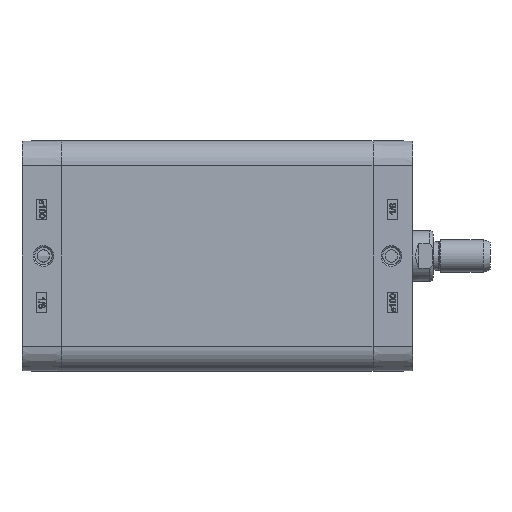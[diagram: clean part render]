
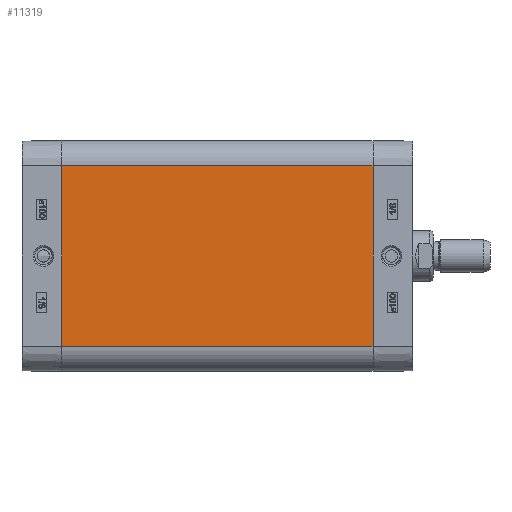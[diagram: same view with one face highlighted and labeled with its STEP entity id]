
A CAD part, left-side view. The second image highlights one B-rep face of the part: STEP entity #11319.
In plain terms, the highlighted planar face has unit normal (-1, 0, 0).
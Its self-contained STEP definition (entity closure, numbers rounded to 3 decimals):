
#5684=CARTESIAN_POINT('',(-56.65,-153.0,44.4));
#5685=VERTEX_POINT('',#5684);
#5692=CARTESIAN_POINT('',(-56.65,-153.0,-44.4));
#5693=VERTEX_POINT('',#5692);
#5694=CARTESIAN_POINT('',(-56.65,-153.0,-44.4));
#5695=DIRECTION('',(0.0,0.0,1.0));
#5696=VECTOR('',#5695,88.8);
#5697=LINE('',#5694,#5696);
#5698=EDGE_CURVE('',#5693,#5685,#5697,.T.);
#11277=CARTESIAN_POINT('',(-56.65,0.0,-44.4));
#11278=VERTEX_POINT('',#11277);
#11279=CARTESIAN_POINT('',(-56.65,0.0,-44.4));
#11280=DIRECTION('',(0.0,-1.0,0.0));
#11281=VECTOR('',#11280,153.0);
#11282=LINE('',#11279,#11281);
#11283=EDGE_CURVE('',#11278,#5693,#11282,.T.);
#11296=CARTESIAN_POINT('',(-56.65,0.0,-44.4));
#11297=DIRECTION('',(-1.0,0.0,0.0));
#11298=DIRECTION('',(0.0,0.0,1.0));
#11299=AXIS2_PLACEMENT_3D('',#11296,#11297,#11298);
#11300=PLANE('',#11299);
#11301=ORIENTED_EDGE('',*,*,#5698,.T.);
#11302=CARTESIAN_POINT('',(-56.65,0.0,44.4));
#11303=VERTEX_POINT('',#11302);
#11304=CARTESIAN_POINT('',(-56.65,0.0,44.4));
#11305=DIRECTION('',(0.0,-1.0,0.0));
#11306=VECTOR('',#11305,153.0);
#11307=LINE('',#11304,#11306);
#11308=EDGE_CURVE('',#11303,#5685,#11307,.T.);
#11309=ORIENTED_EDGE('',*,*,#11308,.F.);
#11310=CARTESIAN_POINT('',(-56.65,0.0,-44.4));
#11311=DIRECTION('',(0.0,0.0,1.0));
#11312=VECTOR('',#11311,88.8);
#11313=LINE('',#11310,#11312);
#11314=EDGE_CURVE('',#11278,#11303,#11313,.T.);
#11315=ORIENTED_EDGE('',*,*,#11314,.F.);
#11316=ORIENTED_EDGE('',*,*,#11283,.T.);
#11317=EDGE_LOOP('',(#11301,#11309,#11315,#11316));
#11318=FACE_OUTER_BOUND('',#11317,.T.);
#11319=ADVANCED_FACE('',(#11318),#11300,.T.);
